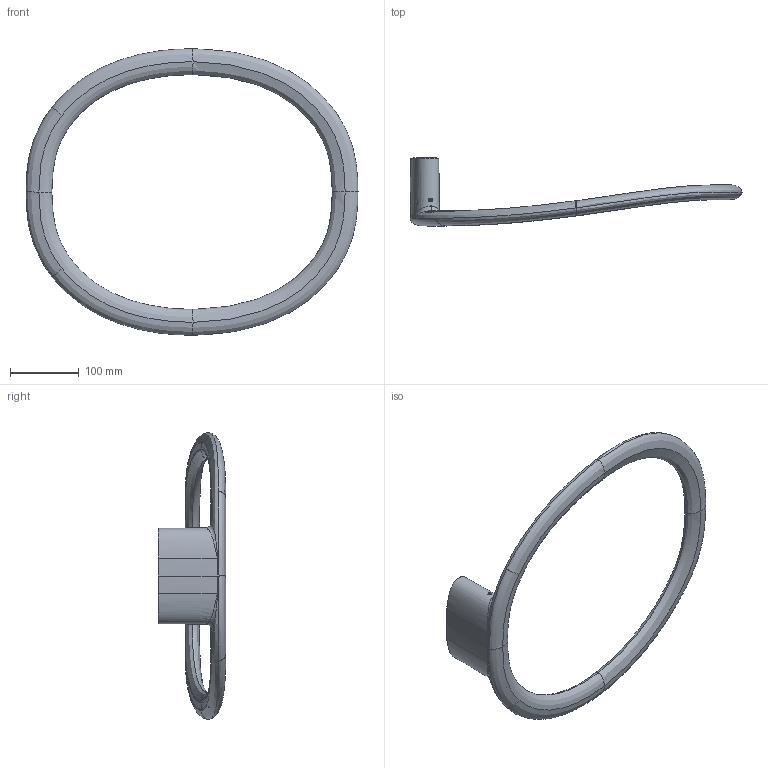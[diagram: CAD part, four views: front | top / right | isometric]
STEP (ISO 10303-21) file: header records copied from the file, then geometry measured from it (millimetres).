
FILE_DESCRIPTION(/* description */ (''),/* implementation_level */ '2;1');
FILE_NAME(/* name */ '502AZ0LD0CEPB.stp',/* time_stamp */ '2025-01-21T10:33:35+01:00',/* author */ ('davide.turci'),/* organization */ (''),/* preprocessor_version */ 'ST-DEVELOPER v20',/* originating_system */ 'Autodesk Inventor 2025',/* authorisation */ '');
FILE_SCHEMA (('AUTOMOTIVE_DESIGN { 1 0 10303 214 3 1 1 }'));
Products named in the file (1): 502AZ1LD0CEDP
Bounding box: 481.5 x 98.5 x 415.5 mm (x, y, z)
Volume: 870716.6 mm3; surface area: 275371.9 mm2
Topology: 17 solids, 17 shells, 1545 faces, 3827 edges, 2334 vertices
Faces by surface type: bspline 906, plane 490, cone 83, cylinder 64, sphere 2
Full cylindrical faces by diameter (mm): 1.7 x4, 3 x2, 3.2 x2, 3.3 x2, 4 x3, 4.22 x2, 4.5 x1, 4.6 x1, 5.075 x4, 5.1 x2, 5.3 x2, 5.4 x2, 10 x1, 12.7 x1, 13.5 x1, 13.98 x1
Entity records: 218253 total; most frequent: CARTESIAN_POINT 186778, ORIENTED_EDGE 7634, DIRECTION 4324, EDGE_CURVE 3817, VERTEX_POINT 2328, LINE 1634, VECTOR 1634, EDGE_LOOP 1601
